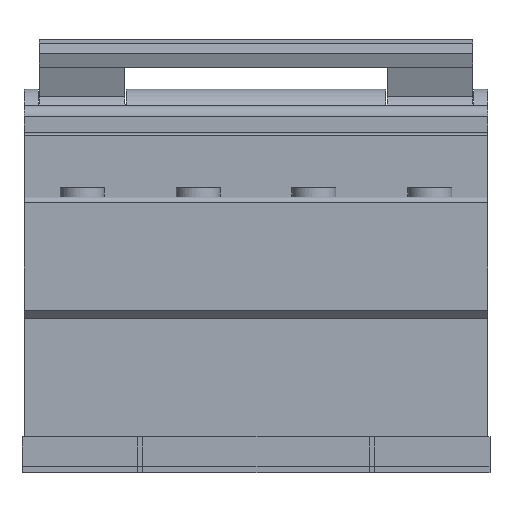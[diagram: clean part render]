
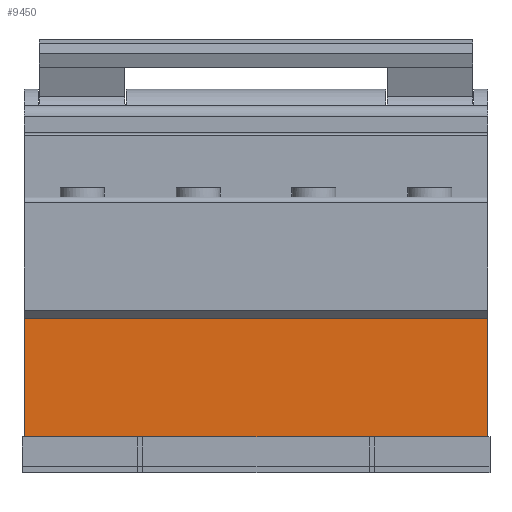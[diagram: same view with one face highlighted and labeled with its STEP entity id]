
A CAD part, front view. The second image highlights one B-rep face of the part: STEP entity #9450.
In plain terms, the highlighted planar face has unit normal (0, -1, 0).
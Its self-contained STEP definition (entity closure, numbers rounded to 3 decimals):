
#1103=LINE('',#15233,#2019);
#1115=LINE('',#15286,#2031);
#1257=LINE('',#15730,#2173);
#1258=LINE('',#15733,#2174);
#1261=LINE('',#15737,#2177);
#1282=LINE('',#15877,#2198);
#2019=VECTOR('',#11443,10.);
#2031=VECTOR('',#11509,10.);
#2173=VECTOR('',#11969,10.);
#2174=VECTOR('',#11972,10.);
#2177=VECTOR('',#11975,10.);
#2198=VECTOR('',#12166,10.);
#2739=PLANE('',#10178);
#3271=FACE_OUTER_BOUND('',#3962,.T.);
#3962=EDGE_LOOP('',(#8377,#8378,#8379,#8380,#8381,#8382));
#4576=VERTEX_POINT('',#14729);
#4730=VERTEX_POINT('',#15181);
#4755=VERTEX_POINT('',#15231);
#4769=VERTEX_POINT('',#15285);
#4912=VERTEX_POINT('',#15728);
#4913=VERTEX_POINT('',#15732);
#5855=EDGE_CURVE('',#4755,#4730,#1103,.T.);
#5876=EDGE_CURVE('',#4576,#4769,#1115,.T.);
#6088=EDGE_CURVE('',#4912,#4755,#1257,.T.);
#6089=EDGE_CURVE('',#4913,#4769,#1258,.T.);
#6092=EDGE_CURVE('',#4730,#4576,#1261,.T.);
#6152=EDGE_CURVE('',#4912,#4913,#1282,.T.);
#8377=ORIENTED_EDGE('',*,*,#5876,.F.);
#8378=ORIENTED_EDGE('',*,*,#6092,.F.);
#8379=ORIENTED_EDGE('',*,*,#5855,.F.);
#8380=ORIENTED_EDGE('',*,*,#6088,.F.);
#8381=ORIENTED_EDGE('',*,*,#6152,.T.);
#8382=ORIENTED_EDGE('',*,*,#6089,.T.);
#9450=ADVANCED_FACE('',(#3271),#2739,.T.);
#10178=AXIS2_PLACEMENT_3D('',#15876,#12164,#12165);
#11443=DIRECTION('',(0.,0.,-1.));
#11509=DIRECTION('',(-1.,0.,0.));
#11969=DIRECTION('',(1.,0.,0.));
#11972=DIRECTION('',(1.,0.,0.));
#11975=DIRECTION('',(-1.,0.,0.));
#12164=DIRECTION('center_axis',(0.,-1.,0.));
#12165=DIRECTION('ref_axis',(0.,0.,-1.));
#12166=DIRECTION('',(0.,0.,-1.));
#14729=CARTESIAN_POINT('',(63.4,-24.356,-59.196));
#15181=CARTESIAN_POINT('',(84.,-24.356,-59.196));
#15231=CARTESIAN_POINT('',(84.,-24.356,-37.778));
#15233=CARTESIAN_POINT('',(84.,-24.356,-37.778));
#15285=CARTESIAN_POINT('',(20.6,-24.356,-59.196));
#15286=CARTESIAN_POINT('',(57.75,-24.356,-59.196));
#15728=CARTESIAN_POINT('',(0.,-24.356,-37.778));
#15730=CARTESIAN_POINT('',(0.,-24.356,-37.778));
#15732=CARTESIAN_POINT('',(0.,-24.356,-59.196));
#15733=CARTESIAN_POINT('',(5.25,-24.356,-59.196));
#15737=CARTESIAN_POINT('',(78.75,-24.356,-59.196));
#15876=CARTESIAN_POINT('Origin',(0.,-24.356,-37.778));
#15877=CARTESIAN_POINT('',(0.,-24.356,-37.778));
